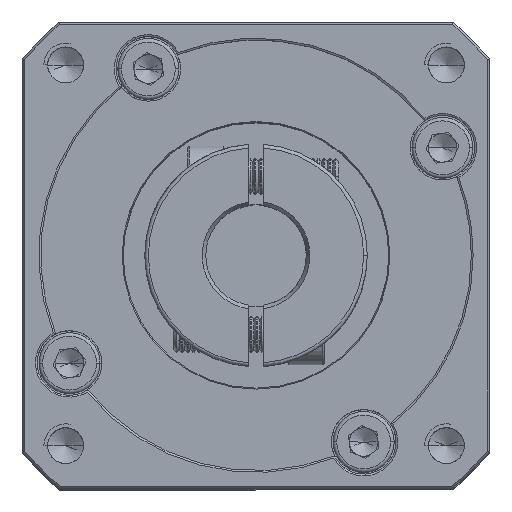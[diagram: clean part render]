
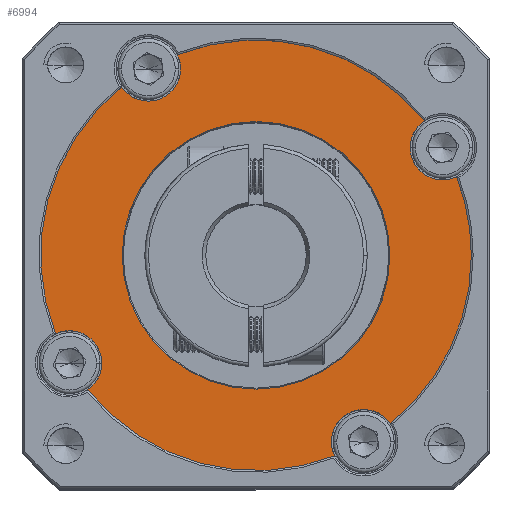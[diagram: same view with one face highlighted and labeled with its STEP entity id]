
A CAD part, top view. The second image highlights one B-rep face of the part: STEP entity #6994.
In plain terms, the highlighted planar face has unit normal (0, 0, 1).
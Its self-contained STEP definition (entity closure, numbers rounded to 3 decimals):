
#810 = VERTEX_POINT ( 'NONE', #56807 ) ;
#916 = VERTEX_POINT ( 'NONE', #26116 ) ;
#1912 = CARTESIAN_POINT ( 'NONE',  ( -22.747, 44.687, 14.19 ) ) ;
#2627 = AXIS2_PLACEMENT_3D ( 'NONE', #71952, #21295, #80412 ) ;
#3635 = CIRCLE ( 'NONE', #10079, 4.5 ) ;
#3915 = EDGE_CURVE ( 'NONE', #29288, #80306, #3635, .T. ) ;
#4601 = ORIENTED_EDGE ( 'NONE', *, *, #63506, .F. ) ;
#5108 = CARTESIAN_POINT ( 'NONE',  ( -48.728, 29.687, 14.19 ) ) ;
#5410 = DIRECTION ( 'NONE',  ( 1., 0., 0. ) ) ;
#5881 = EDGE_CURVE ( 'NONE', #78516, #80306, #37163, .T. ) ;
#6012 = CARTESIAN_POINT ( 'NONE',  ( -22.747, 44.687, 14.19 ) ) ;
#6796 = ORIENTED_EDGE ( 'NONE', *, *, #5881, .T. ) ;
#6825 = CARTESIAN_POINT ( 'NONE',  ( -48.728, 29.687, 14.19 ) ) ;
#6994 = ADVANCED_FACE ( 'NONE', ( #68374, #93332 ), #46115, .T. ) ;
#7003 = EDGE_CURVE ( 'NONE', #78516, #916, #37963, .T. ) ;
#7448 = EDGE_CURVE ( 'NONE', #13673, #107511, #108958, .T. ) ;
#8237 = AXIS2_PLACEMENT_3D ( 'NONE', #88453, #37973, #96877 ) ;
#8610 = EDGE_CURVE ( 'NONE', #107511, #13673, #20355, .T. ) ;
#8886 = CARTESIAN_POINT ( 'NONE',  ( -76.66, 18.742, 14.19 ) ) ;
#9113 = ORIENTED_EDGE ( 'NONE', *, *, #105677, .F. ) ;
#9557 = EDGE_CURVE ( 'NONE', #916, #95766, #45093, .T. ) ;
#10079 = AXIS2_PLACEMENT_3D ( 'NONE', #16553, #75683, #25050 ) ;
#10371 = DIRECTION ( 'NONE',  ( 1., 0., 0. ) ) ;
#10457 = CIRCLE ( 'NONE', #13948, 4.5 ) ;
#11055 = CIRCLE ( 'NONE', #97638, 30. ) ;
#13548 = ORIENTED_EDGE ( 'NONE', *, *, #64643, .T. ) ;
#13608 = DIRECTION ( 'NONE',  ( 1., 0., 0. ) ) ;
#13673 = VERTEX_POINT ( 'NONE', #22230 ) ;
#13920 = VERTEX_POINT ( 'NONE', #102910 ) ;
#13948 = AXIS2_PLACEMENT_3D ( 'NONE', #6012, #65133, #14500 ) ;
#14086 = AXIS2_PLACEMENT_3D ( 'NONE', #5108, #64251, #13608 ) ;
#14500 = DIRECTION ( 'NONE',  ( 1., 0., 0. ) ) ;
#15344 = DIRECTION ( 'NONE',  ( 1., 0., 0. ) ) ;
#15571 = ORIENTED_EDGE ( 'NONE', *, *, #66202, .F. ) ;
#16162 = AXIS2_PLACEMENT_3D ( 'NONE', #91207, #40766, #99705 ) ;
#16553 = CARTESIAN_POINT ( 'NONE',  ( -74.709, 14.687, 14.19 ) ) ;
#17076 = CIRCLE ( 'NONE', #22846, 4.5 ) ;
#18461 = CARTESIAN_POINT ( 'NONE',  ( -20.796, 40.632, 14.19 ) ) ;
#20327 = ORIENTED_EDGE ( 'NONE', *, *, #7003, .F. ) ;
#20355 = CIRCLE ( 'NONE', #14086, 18.644 ) ;
#21295 = DIRECTION ( 'NONE',  ( 0., 0., 1. ) ) ;
#21600 = ORIENTED_EDGE ( 'NONE', *, *, #61595, .F. ) ;
#22230 = CARTESIAN_POINT ( 'NONE',  ( -67.372, 29.687, 14.19 ) ) ;
#22380 = EDGE_CURVE ( 'NONE', #92704, #99243, #100390, .T. ) ;
#22846 = AXIS2_PLACEMENT_3D ( 'NONE', #1912, #60996, #10371 ) ;
#23408 = DIRECTION ( 'NONE',  ( 0., 0., 1. ) ) ;
#25050 = DIRECTION ( 'NONE',  ( 1., 0., 0. ) ) ;
#25418 = CARTESIAN_POINT ( 'NONE',  ( -59.673, 57.62, 14.19 ) ) ;
#26116 = CARTESIAN_POINT ( 'NONE',  ( -59.228, 55.668, 14.19 ) ) ;
#26124 = EDGE_CURVE ( 'NONE', #810, #77504, #101045, .T. ) ;
#26426 = CARTESIAN_POINT ( 'NONE',  ( -18.728, 29.687, 14.19 ) ) ;
#29167 = CARTESIAN_POINT ( 'NONE',  ( -30.083, 29.687, 14.19 ) ) ;
#29288 = VERTEX_POINT ( 'NONE', #51722 ) ;
#31654 = DIRECTION ( 'NONE',  ( 0., 0., 1. ) ) ;
#36726 = CIRCLE ( 'NONE', #16162, 4.5 ) ;
#37137 = DIRECTION ( 'NONE',  ( 0., 0., 1. ) ) ;
#37163 = CIRCLE ( 'NONE', #79677, 30. ) ;
#37963 = CIRCLE ( 'NONE', #2627, 4.5 ) ;
#37973 = DIRECTION ( 'NONE',  ( 0., 0., 1. ) ) ;
#38086 = AXIS2_PLACEMENT_3D ( 'NONE', #45623, #104493, #54066 ) ;
#39961 = VERTEX_POINT ( 'NONE', #103062 ) ;
#40766 = DIRECTION ( 'NONE',  ( 0., 0., 1. ) ) ;
#40878 = VERTEX_POINT ( 'NONE', #82242 ) ;
#42030 = VERTEX_POINT ( 'NONE', #43815 ) ;
#43452 = CARTESIAN_POINT ( 'NONE',  ( -48.728, 29.687, 14.19 ) ) ;
#43815 = CARTESIAN_POINT ( 'NONE',  ( -30.01, 6.243, 14.19 ) ) ;
#44186 = ORIENTED_EDGE ( 'NONE', *, *, #7448, .T. ) ;
#45093 = CIRCLE ( 'NONE', #94056, 4.5 ) ;
#45623 = CARTESIAN_POINT ( 'NONE',  ( -48.728, 29.687, 14.19 ) ) ;
#46115 = PLANE ( 'NONE',  #8237 ) ;
#46939 = CARTESIAN_POINT ( 'NONE',  ( -48.728, 29.687, 14.19 ) ) ;
#47005 = DIRECTION ( 'NONE',  ( 0., 0., 1. ) ) ;
#50624 = ORIENTED_EDGE ( 'NONE', *, *, #26124, .F. ) ;
#51722 = CARTESIAN_POINT ( 'NONE',  ( -70.209, 14.687, 14.19 ) ) ;
#51845 = DIRECTION ( 'NONE',  ( 1., 0., 0. ) ) ;
#54066 = DIRECTION ( 'NONE',  ( 1., 0., 0. ) ) ;
#54205 = CIRCLE ( 'NONE', #71237, 30. ) ;
#54911 = EDGE_CURVE ( 'NONE', #13920, #95766, #11055, .T. ) ;
#55391 = DIRECTION ( 'NONE',  ( 1., 0., 0. ) ) ;
#56050 = DIRECTION ( 'NONE',  ( 0., 0., 1. ) ) ;
#56807 = CARTESIAN_POINT ( 'NONE',  ( -38.228, 3.707, 14.19 ) ) ;
#58363 = AXIS2_PLACEMENT_3D ( 'NONE', #74019, #23408, #82459 ) ;
#60996 = DIRECTION ( 'NONE',  ( 0., 0., 1. ) ) ;
#61595 = EDGE_CURVE ( 'NONE', #40878, #29288, #36726, .T. ) ;
#62129 = EDGE_LOOP ( 'NONE', ( #71682, #44186 ) ) ;
#63304 = EDGE_LOOP ( 'NONE', ( #21600, #105730, #50624, #9113, #13548, #75199, #4601, #15571, #74017, #106380, #20327, #6796, #90052 ) ) ;
#63506 = EDGE_CURVE ( 'NONE', #39961, #99243, #17076, .T. ) ;
#64251 = DIRECTION ( 'NONE',  ( 0., 0., -1. ) ) ;
#64643 = EDGE_CURVE ( 'NONE', #42030, #92704, #68370, .T. ) ;
#65133 = DIRECTION ( 'NONE',  ( 0., 0., 1. ) ) ;
#65966 = DIRECTION ( 'NONE',  ( 0., 0., 1. ) ) ;
#66202 = EDGE_CURVE ( 'NONE', #13920, #39961, #10457, .T. ) ;
#68370 = CIRCLE ( 'NONE', #95063, 30. ) ;
#68374 = FACE_BOUND ( 'NONE', #62129, .T. ) ;
#71237 = AXIS2_PLACEMENT_3D ( 'NONE', #106473, #56050, #5410 ) ;
#71682 = ORIENTED_EDGE ( 'NONE', *, *, #8610, .T. ) ;
#71952 = CARTESIAN_POINT ( 'NONE',  ( -63.728, 55.668, 14.19 ) ) ;
#74017 = ORIENTED_EDGE ( 'NONE', *, *, #54911, .T. ) ;
#74019 = CARTESIAN_POINT ( 'NONE',  ( -33.728, 3.707, 14.19 ) ) ;
#75110 = CARTESIAN_POINT ( 'NONE',  ( -67.445, 53.132, 14.19 ) ) ;
#75199 = ORIENTED_EDGE ( 'NONE', *, *, #22380, .T. ) ;
#75683 = DIRECTION ( 'NONE',  ( 0., 0., 1. ) ) ;
#76581 = CARTESIAN_POINT ( 'NONE',  ( -37.783, 1.755, 14.19 ) ) ;
#77504 = VERTEX_POINT ( 'NONE', #76581 ) ;
#78516 = VERTEX_POINT ( 'NONE', #75110 ) ;
#79677 = AXIS2_PLACEMENT_3D ( 'NONE', #6825, #65966, #15344 ) ;
#80306 = VERTEX_POINT ( 'NONE', #8886 ) ;
#80412 = DIRECTION ( 'NONE',  ( 1., 0., 0. ) ) ;
#82196 = CARTESIAN_POINT ( 'NONE',  ( -48.728, 29.687, 14.19 ) ) ;
#82242 = CARTESIAN_POINT ( 'NONE',  ( -72.173, 10.97, 14.19 ) ) ;
#82459 = DIRECTION ( 'NONE',  ( 1., 0., 0. ) ) ;
#85121 = EDGE_CURVE ( 'NONE', #40878, #77504, #54205, .T. ) ;
#87222 = CIRCLE ( 'NONE', #58363, 4.5 ) ;
#87649 = CARTESIAN_POINT ( 'NONE',  ( -33.728, 3.707, 14.19 ) ) ;
#88453 = CARTESIAN_POINT ( 'NONE',  ( -48.728, 29.687, 14.19 ) ) ;
#90052 = ORIENTED_EDGE ( 'NONE', *, *, #3915, .F. ) ;
#90621 = DIRECTION ( 'NONE',  ( 1., 0., 0. ) ) ;
#91207 = CARTESIAN_POINT ( 'NONE',  ( -74.709, 14.687, 14.19 ) ) ;
#92704 = VERTEX_POINT ( 'NONE', #26426 ) ;
#93332 = FACE_OUTER_BOUND ( 'NONE', #63304, .T. ) ;
#94056 = AXIS2_PLACEMENT_3D ( 'NONE', #97393, #47005, #105873 ) ;
#95063 = AXIS2_PLACEMENT_3D ( 'NONE', #46939, #105812, #55391 ) ;
#95766 = VERTEX_POINT ( 'NONE', #25418 ) ;
#96068 = DIRECTION ( 'NONE',  ( 1., 0., 0. ) ) ;
#96877 = DIRECTION ( 'NONE',  ( 1., 0., 0. ) ) ;
#97393 = CARTESIAN_POINT ( 'NONE',  ( -63.728, 55.668, 14.19 ) ) ;
#97638 = AXIS2_PLACEMENT_3D ( 'NONE', #82196, #31654, #90621 ) ;
#99243 = VERTEX_POINT ( 'NONE', #18461 ) ;
#99705 = DIRECTION ( 'NONE',  ( 1., 0., 0. ) ) ;
#100390 = CIRCLE ( 'NONE', #105762, 30. ) ;
#101045 = CIRCLE ( 'NONE', #105422, 4.5 ) ;
#102377 = DIRECTION ( 'NONE',  ( 0., 0., 1. ) ) ;
#102910 = CARTESIAN_POINT ( 'NONE',  ( -25.283, 48.405, 14.19 ) ) ;
#103062 = CARTESIAN_POINT ( 'NONE',  ( -27.247, 44.687, 14.19 ) ) ;
#104493 = DIRECTION ( 'NONE',  ( 0., 0., -1. ) ) ;
#105422 = AXIS2_PLACEMENT_3D ( 'NONE', #87649, #37137, #96068 ) ;
#105677 = EDGE_CURVE ( 'NONE', #42030, #810, #87222, .T. ) ;
#105730 = ORIENTED_EDGE ( 'NONE', *, *, #85121, .T. ) ;
#105762 = AXIS2_PLACEMENT_3D ( 'NONE', #43452, #102377, #51845 ) ;
#105812 = DIRECTION ( 'NONE',  ( 0., 0., 1. ) ) ;
#105873 = DIRECTION ( 'NONE',  ( 1., 0., 0. ) ) ;
#106380 = ORIENTED_EDGE ( 'NONE', *, *, #9557, .F. ) ;
#106473 = CARTESIAN_POINT ( 'NONE',  ( -48.728, 29.687, 14.19 ) ) ;
#107511 = VERTEX_POINT ( 'NONE', #29167 ) ;
#108958 = CIRCLE ( 'NONE', #38086, 18.644 ) ;
